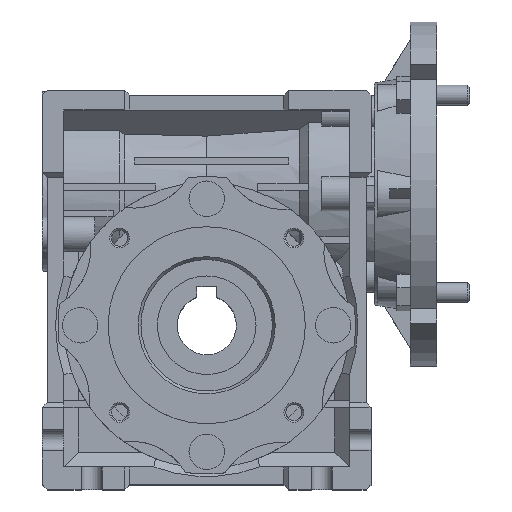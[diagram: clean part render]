
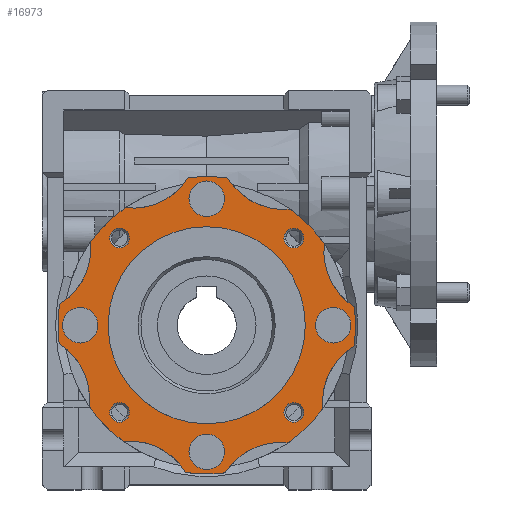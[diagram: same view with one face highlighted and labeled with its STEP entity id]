
A CAD part, top view. The second image highlights one B-rep face of the part: STEP entity #16973.
In plain terms, the highlighted planar face has unit normal (0, 0, 1) as drawn and (-1, 0, 0) by its records, which use the part's own axes.
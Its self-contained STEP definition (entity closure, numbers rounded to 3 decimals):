
#767=CIRCLE('',#17893,43.5);
#771=CIRCLE('',#17898,43.5);
#776=CIRCLE('',#17904,43.5);
#935=CIRCLE('',#18302,43.5);
#936=CIRCLE('',#18304,20.);
#937=CIRCLE('',#18306,20.);
#938=CIRCLE('',#18308,20.);
#939=CIRCLE('',#18310,20.);
#940=CIRCLE('',#18312,20.);
#941=CIRCLE('',#18314,20.);
#942=CIRCLE('',#18316,20.);
#943=CIRCLE('',#18318,20.);
#944=CIRCLE('',#18320,45.25);
#945=CIRCLE('',#18322,45.25);
#946=CIRCLE('',#18324,45.25);
#947=CIRCLE('',#18326,45.25);
#948=CIRCLE('',#18328,3.);
#949=CIRCLE('',#18329,3.);
#950=CIRCLE('',#18330,3.);
#951=CIRCLE('',#18331,3.);
#952=CIRCLE('',#18332,5.4);
#953=CIRCLE('',#18333,5.4);
#954=CIRCLE('',#18334,5.4);
#955=CIRCLE('',#18335,5.4);
#956=CIRCLE('',#18336,30.);
#3508=ORIENTED_EDGE('',*,*,#7686,.T.);
#3509=ORIENTED_EDGE('',*,*,#7687,.T.);
#3510=ORIENTED_EDGE('',*,*,#7688,.T.);
#3511=ORIENTED_EDGE('',*,*,#7689,.T.);
#3512=ORIENTED_EDGE('',*,*,#7690,.T.);
#3513=ORIENTED_EDGE('',*,*,#7691,.T.);
#3514=ORIENTED_EDGE('',*,*,#7692,.T.);
#3515=ORIENTED_EDGE('',*,*,#7693,.T.);
#3516=ORIENTED_EDGE('',*,*,#7694,.T.);
#3517=ORIENTED_EDGE('',*,*,#7666,.T.);
#3518=ORIENTED_EDGE('',*,*,#7063,.F.);
#3519=ORIENTED_EDGE('',*,*,#7669,.T.);
#3520=ORIENTED_EDGE('',*,*,#7682,.F.);
#3521=ORIENTED_EDGE('',*,*,#7670,.T.);
#3522=ORIENTED_EDGE('',*,*,#7043,.F.);
#3523=ORIENTED_EDGE('',*,*,#7673,.T.);
#3524=ORIENTED_EDGE('',*,*,#7683,.F.);
#3525=ORIENTED_EDGE('',*,*,#7674,.T.);
#3526=ORIENTED_EDGE('',*,*,#7051,.F.);
#3527=ORIENTED_EDGE('',*,*,#7677,.T.);
#3528=ORIENTED_EDGE('',*,*,#7684,.F.);
#3529=ORIENTED_EDGE('',*,*,#7678,.T.);
#3530=ORIENTED_EDGE('',*,*,#7662,.F.);
#3531=ORIENTED_EDGE('',*,*,#7681,.T.);
#3532=ORIENTED_EDGE('',*,*,#7685,.F.);
#7043=EDGE_CURVE('',#9466,#9467,#767,.T.);
#7051=EDGE_CURVE('',#9474,#9475,#771,.T.);
#7063=EDGE_CURVE('',#9486,#9487,#776,.T.);
#7662=EDGE_CURVE('',#9804,#9805,#935,.T.);
#7666=EDGE_CURVE('',#9806,#9487,#936,.T.);
#7669=EDGE_CURVE('',#9486,#9807,#937,.T.);
#7670=EDGE_CURVE('',#9808,#9467,#938,.T.);
#7673=EDGE_CURVE('',#9466,#9809,#939,.T.);
#7674=EDGE_CURVE('',#9810,#9475,#940,.T.);
#7677=EDGE_CURVE('',#9474,#9811,#941,.T.);
#7678=EDGE_CURVE('',#9812,#9805,#942,.T.);
#7681=EDGE_CURVE('',#9804,#9813,#943,.T.);
#7682=EDGE_CURVE('',#9808,#9807,#944,.T.);
#7683=EDGE_CURVE('',#9810,#9809,#945,.T.);
#7684=EDGE_CURVE('',#9812,#9811,#946,.T.);
#7685=EDGE_CURVE('',#9806,#9813,#947,.T.);
#7686=EDGE_CURVE('',#9814,#9814,#948,.T.);
#7687=EDGE_CURVE('',#9815,#9815,#949,.T.);
#7688=EDGE_CURVE('',#9816,#9816,#950,.T.);
#7689=EDGE_CURVE('',#9817,#9817,#951,.T.);
#7690=EDGE_CURVE('',#9818,#9818,#952,.T.);
#7691=EDGE_CURVE('',#9819,#9819,#953,.T.);
#7692=EDGE_CURVE('',#9820,#9820,#954,.T.);
#7693=EDGE_CURVE('',#9821,#9821,#955,.T.);
#7694=EDGE_CURVE('',#9822,#9822,#956,.T.);
#9466=VERTEX_POINT('',#25855);
#9467=VERTEX_POINT('',#25857);
#9474=VERTEX_POINT('',#25872);
#9475=VERTEX_POINT('',#25874);
#9486=VERTEX_POINT('',#25900);
#9487=VERTEX_POINT('',#25902);
#9804=VERTEX_POINT('',#27205);
#9805=VERTEX_POINT('',#27207);
#9806=VERTEX_POINT('',#27213);
#9807=VERTEX_POINT('',#27217);
#9808=VERTEX_POINT('',#27221);
#9809=VERTEX_POINT('',#27225);
#9810=VERTEX_POINT('',#27229);
#9811=VERTEX_POINT('',#27233);
#9812=VERTEX_POINT('',#27237);
#9813=VERTEX_POINT('',#27241);
#9814=VERTEX_POINT('',#27253);
#9815=VERTEX_POINT('',#27255);
#9816=VERTEX_POINT('',#27257);
#9817=VERTEX_POINT('',#27259);
#9818=VERTEX_POINT('',#27261);
#9819=VERTEX_POINT('',#27263);
#9820=VERTEX_POINT('',#27265);
#9821=VERTEX_POINT('',#27267);
#9822=VERTEX_POINT('',#27269);
#14108=EDGE_LOOP('',(#3508));
#14109=EDGE_LOOP('',(#3509));
#14110=EDGE_LOOP('',(#3510));
#14111=EDGE_LOOP('',(#3511));
#14112=EDGE_LOOP('',(#3512));
#14113=EDGE_LOOP('',(#3513));
#14114=EDGE_LOOP('',(#3514));
#14115=EDGE_LOOP('',(#3515));
#14116=EDGE_LOOP('',(#3516));
#14117=EDGE_LOOP('',(#3517,#3518,#3519,#3520,#3521,#3522,#3523,#3524,#3525,
#3526,#3527,#3528,#3529,#3530,#3531,#3532));
#15227=FACE_BOUND('',#14108,.T.);
#15228=FACE_BOUND('',#14109,.T.);
#15229=FACE_BOUND('',#14110,.T.);
#15230=FACE_BOUND('',#14111,.T.);
#15231=FACE_BOUND('',#14112,.T.);
#15232=FACE_BOUND('',#14113,.T.);
#15233=FACE_BOUND('',#14114,.T.);
#15234=FACE_BOUND('',#14115,.T.);
#15235=FACE_BOUND('',#14116,.T.);
#15236=FACE_BOUND('',#14117,.T.);
#16219=PLANE('',#18327);
#16973=ADVANCED_FACE('',(#15227,#15228,#15229,#15230,#15231,#15232,#15233,
#15234,#15235,#15236),#16219,.F.);
#17893=AXIS2_PLACEMENT_3D('',#25856,#20315,#20316);
#17898=AXIS2_PLACEMENT_3D('',#25873,#20329,#20330);
#17904=AXIS2_PLACEMENT_3D('',#25901,#20347,#20348);
#18302=AXIS2_PLACEMENT_3D('',#27206,#21524,#21525);
#18304=AXIS2_PLACEMENT_3D('',#27212,#21531,#21532);
#18306=AXIS2_PLACEMENT_3D('',#27218,#21537,#21538);
#18308=AXIS2_PLACEMENT_3D('',#27220,#21541,#21542);
#18310=AXIS2_PLACEMENT_3D('',#27226,#21547,#21548);
#18312=AXIS2_PLACEMENT_3D('',#27228,#21551,#21552);
#18314=AXIS2_PLACEMENT_3D('',#27234,#21557,#21558);
#18316=AXIS2_PLACEMENT_3D('',#27236,#21561,#21562);
#18318=AXIS2_PLACEMENT_3D('',#27242,#21567,#21568);
#18320=AXIS2_PLACEMENT_3D('',#27244,#21571,#21572);
#18322=AXIS2_PLACEMENT_3D('',#27246,#21575,#21576);
#18324=AXIS2_PLACEMENT_3D('',#27248,#21579,#21580);
#18326=AXIS2_PLACEMENT_3D('',#27250,#21583,#21584);
#18327=AXIS2_PLACEMENT_3D('',#27251,#21585,#21586);
#18328=AXIS2_PLACEMENT_3D('',#27252,#21587,#21588);
#18329=AXIS2_PLACEMENT_3D('',#27254,#21589,#21590);
#18330=AXIS2_PLACEMENT_3D('',#27256,#21591,#21592);
#18331=AXIS2_PLACEMENT_3D('',#27258,#21593,#21594);
#18332=AXIS2_PLACEMENT_3D('',#27260,#21595,#21596);
#18333=AXIS2_PLACEMENT_3D('',#27262,#21597,#21598);
#18334=AXIS2_PLACEMENT_3D('',#27264,#21599,#21600);
#18335=AXIS2_PLACEMENT_3D('',#27266,#21601,#21602);
#18336=AXIS2_PLACEMENT_3D('',#27268,#21603,#21604);
#20315=DIRECTION('',(1.,0.,0.));
#20316=DIRECTION('',(0.,0.,-1.));
#20329=DIRECTION('',(1.,0.,0.));
#20330=DIRECTION('',(0.,0.,-1.));
#20347=DIRECTION('',(1.,0.,0.));
#20348=DIRECTION('',(0.,0.,-1.));
#21524=DIRECTION('',(1.,0.,0.));
#21525=DIRECTION('',(0.,0.,-1.));
#21531=DIRECTION('',(1.,0.,0.));
#21532=DIRECTION('',(0.,0.,-1.));
#21537=DIRECTION('',(1.,0.,0.));
#21538=DIRECTION('',(0.,0.,-1.));
#21541=DIRECTION('',(1.,0.,0.));
#21542=DIRECTION('',(0.,0.,-1.));
#21547=DIRECTION('',(1.,0.,0.));
#21548=DIRECTION('',(0.,0.,-1.));
#21551=DIRECTION('',(1.,0.,0.));
#21552=DIRECTION('',(0.,0.,-1.));
#21557=DIRECTION('',(1.,0.,0.));
#21558=DIRECTION('',(0.,0.,-1.));
#21561=DIRECTION('',(1.,0.,0.));
#21562=DIRECTION('',(0.,0.,-1.));
#21567=DIRECTION('',(1.,0.,0.));
#21568=DIRECTION('',(0.,0.,-1.));
#21571=DIRECTION('',(1.,0.,0.));
#21572=DIRECTION('',(0.,0.,-1.));
#21575=DIRECTION('',(1.,0.,0.));
#21576=DIRECTION('',(0.,0.,-1.));
#21579=DIRECTION('',(1.,0.,0.));
#21580=DIRECTION('',(0.,0.,-1.));
#21583=DIRECTION('',(1.,0.,0.));
#21584=DIRECTION('',(0.,0.,-1.));
#21585=DIRECTION('',(1.,0.,0.));
#21586=DIRECTION('',(0.,0.,-1.));
#21587=DIRECTION('',(1.,0.,0.));
#21588=DIRECTION('',(0.,0.,-1.));
#21589=DIRECTION('',(1.,0.,0.));
#21590=DIRECTION('',(0.,0.,-1.));
#21591=DIRECTION('',(1.,0.,0.));
#21592=DIRECTION('',(0.,0.,-1.));
#21593=DIRECTION('',(1.,0.,0.));
#21594=DIRECTION('',(0.,0.,-1.));
#21595=DIRECTION('',(1.,0.,0.));
#21596=DIRECTION('',(0.,0.,-1.));
#21597=DIRECTION('',(1.,0.,0.));
#21598=DIRECTION('',(0.,0.,-1.));
#21599=DIRECTION('',(1.,0.,0.));
#21600=DIRECTION('',(0.,0.,-1.));
#21601=DIRECTION('',(1.,0.,0.));
#21602=DIRECTION('',(0.,0.,-1.));
#21603=DIRECTION('',(1.,0.,0.));
#21604=DIRECTION('',(0.,0.,-1.));
#25855=CARTESIAN_POINT('',(-36.5,25.385,-35.325));
#25856=CARTESIAN_POINT('',(-36.5,0.,0.));
#25857=CARTESIAN_POINT('',(-36.5,35.762,-24.765));
#25872=CARTESIAN_POINT('',(-36.5,-35.325,-25.385));
#25873=CARTESIAN_POINT('',(-36.5,0.,0.));
#25874=CARTESIAN_POINT('',(-36.5,-24.765,-35.762));
#25900=CARTESIAN_POINT('',(-36.5,35.325,25.385));
#25901=CARTESIAN_POINT('',(-36.5,0.,0.));
#25902=CARTESIAN_POINT('',(-36.5,24.765,35.762));
#27205=CARTESIAN_POINT('',(-36.5,-25.385,35.325));
#27206=CARTESIAN_POINT('',(-36.5,0.,0.));
#27207=CARTESIAN_POINT('',(-36.5,-35.762,24.765));
#27212=CARTESIAN_POINT('',(-36.5,22.476,55.631));
#27213=CARTESIAN_POINT('',(-36.5,5.597,44.902));
#27217=CARTESIAN_POINT('',(-36.5,44.798,6.38));
#27218=CARTESIAN_POINT('',(-36.5,55.23,23.444));
#27220=CARTESIAN_POINT('',(-36.5,55.631,-22.476));
#27221=CARTESIAN_POINT('',(-36.5,44.902,-5.597));
#27225=CARTESIAN_POINT('',(-36.5,6.38,-44.798));
#27226=CARTESIAN_POINT('',(-36.5,23.444,-55.23));
#27228=CARTESIAN_POINT('',(-36.5,-22.476,-55.631));
#27229=CARTESIAN_POINT('',(-36.5,-5.597,-44.902));
#27233=CARTESIAN_POINT('',(-36.5,-44.798,-6.38));
#27234=CARTESIAN_POINT('',(-36.5,-55.23,-23.444));
#27236=CARTESIAN_POINT('',(-36.5,-55.631,22.476));
#27237=CARTESIAN_POINT('',(-36.5,-44.902,5.597));
#27241=CARTESIAN_POINT('',(-36.5,-6.38,44.798));
#27242=CARTESIAN_POINT('',(-36.5,-23.444,55.23));
#27244=CARTESIAN_POINT('',(-36.5,0.,0.));
#27246=CARTESIAN_POINT('',(-36.5,0.,0.));
#27248=CARTESIAN_POINT('',(-36.5,0.,0.));
#27250=CARTESIAN_POINT('',(-36.5,0.,0.));
#27251=CARTESIAN_POINT('',(-36.5,11.238,27.816));
#27252=CARTESIAN_POINT('',(-36.5,26.517,26.517));
#27253=CARTESIAN_POINT('',(-36.5,26.517,23.517));
#27254=CARTESIAN_POINT('',(-36.5,-26.517,26.517));
#27255=CARTESIAN_POINT('',(-36.5,-26.517,23.517));
#27256=CARTESIAN_POINT('',(-36.5,-26.517,-26.517));
#27257=CARTESIAN_POINT('',(-36.5,-26.517,-29.517));
#27258=CARTESIAN_POINT('',(-36.5,26.517,-26.517));
#27259=CARTESIAN_POINT('',(-36.5,26.517,-29.517));
#27260=CARTESIAN_POINT('',(-36.5,0.,38.5));
#27261=CARTESIAN_POINT('',(-36.5,0.,33.1));
#27262=CARTESIAN_POINT('',(-36.5,-38.5,0.));
#27263=CARTESIAN_POINT('',(-36.5,-38.5,-5.4));
#27264=CARTESIAN_POINT('',(-36.5,0.,-38.5));
#27265=CARTESIAN_POINT('',(-36.5,0.,-43.9));
#27266=CARTESIAN_POINT('',(-36.5,38.5,0.));
#27267=CARTESIAN_POINT('',(-36.5,38.5,-5.4));
#27268=CARTESIAN_POINT('',(-36.5,0.,0.));
#27269=CARTESIAN_POINT('',(-36.5,0.,-30.));
